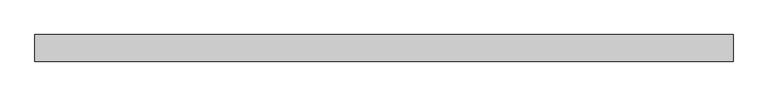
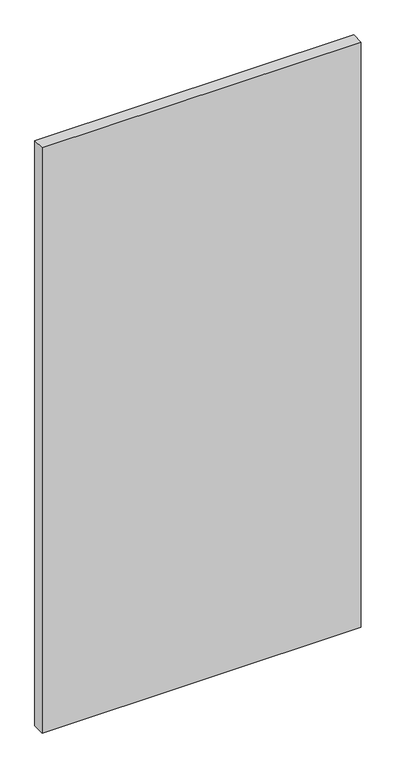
"""IFC4 building model written with IfcOpenShell, lengths in millimetres: plate geometry, Panneau système : Vitre 4cm."""

import ifcopenshell
import ifcopenshell.guid

model = None  # the IFC model being written
_history = None  # IfcOwnerHistory: only IFC2X3 demands one
_inside = {}  # id of a spatial element -> (the spatial element, [elements in it])
_under = {}  # id of a project, library or spatial element -> (it, [spatial elements below it])
_declared = {}  # id of a project -> (the project, [libraries it declares])
_typed = {}  # id of a type object -> (the type object, [elements of that type])
_made_of = {}  # id of a material, layer set ... -> (it, [elements and type objects made of it])


def new_model(schema):
    """Start an empty IFC model of exactly this schema.

    Asked for "IFC4X3", IfcOpenShell would pick the latest addendum, in which some entities
    have other attributes; the version numbers below select the first issue.
    IFC2X3 requires an IfcOwnerHistory on every rooted entity: one is made here for all.
    """
    global model, _history
    if schema == "IFC4X3":
        model = ifcopenshell.file(schema_version=(4, 3, 0, 0))
    else:
        model = ifcopenshell.file(schema=schema)
    _inside.clear()
    _under.clear()
    _declared.clear()
    _typed.clear()
    _made_of.clear()
    _history = None
    if model.schema == "IFC2X3":
        org = make("IfcOrganization", Name="unknown")
        user = make(
            "IfcPersonAndOrganization",
            ThePerson=make("IfcPerson", FamilyName="unknown"),
            TheOrganization=org,
        )
        app = make(
            "IfcApplication",
            ApplicationDeveloper=org,
            Version="unknown",
            ApplicationFullName="unknown",
            ApplicationIdentifier="unknown",
        )
        _history = make(
            "IfcOwnerHistory",
            OwningUser=user,
            OwningApplication=app,
            ChangeAction="ADDED",
            CreationDate=0,
        )
    return model


def make(cls, **values):
    """One entity of the class cls with the attributes given. An attribute that is None is left unset."""
    return model.create_entity(
        cls, **{name: value for name, value in values.items() if value is not None}
    )


def rooted(cls, **values):
    """An entity with a GlobalId (a new one), such as an element, a storey or a relation."""
    return make(cls, GlobalId=ifcopenshell.guid.new(), OwnerHistory=_history, **values)


def si_unit(unit_type, name, prefix=None):
    """IfcSIUnit, for example si_unit("LENGTHUNIT", "METRE", prefix="MILLI")."""
    return make("IfcSIUnit", UnitType=unit_type, Prefix=prefix, Name=name)


def assignment(units):
    """IfcUnitAssignment: the units of a project."""
    return None if units is None else make("IfcUnitAssignment", Units=units)


def point(xyz):
    """IfcCartesianPoint."""
    return None if xyz is None else make("IfcCartesianPoint", Coordinates=xyz)


def direction(xyz):
    """IfcDirection."""
    return None if xyz is None else make("IfcDirection", DirectionRatios=xyz)


def frame(location, z_axis=None, x_axis=None):
    """IfcAxis2Placement3D, a coordinate frame: its origin and axes. An axis left out is left unset."""
    return make(
        "IfcAxis2Placement3D",
        Location=point(location),
        Axis=direction(z_axis),
        RefDirection=direction(x_axis),
    )


def origin():
    """The frame at (0, 0, 0) with its axes left unset."""
    return frame((0.0, 0.0, 0.0))


def origin_with_axes():
    """The frame at (0, 0, 0) with the z axis (0, 0, 1) and the x axis (1, 0, 0) written out."""
    return frame((0.0, 0.0, 0.0), z_axis=(0.0, 0.0, 1.0), x_axis=(1.0, 0.0, 0.0))


def place(relative_to, where):
    """IfcLocalPlacement: puts the frame where relative to a parent placement (None: the world)."""
    return make(
        "IfcLocalPlacement", PlacementRelTo=relative_to, RelativePlacement=where
    )


def context(
    kind, dimensions, precision=None, world=None, true_north=None, identifier=None
):
    """IfcGeometricRepresentationContext, for example the 3D "Model" context."""
    return make(
        "IfcGeometricRepresentationContext",
        ContextIdentifier=identifier,
        ContextType=kind,
        CoordinateSpaceDimension=dimensions,
        Precision=precision,
        WorldCoordinateSystem=world,
        TrueNorth=true_north,
    )


def project(units=None, contexts=None):
    """IfcProject with its units and contexts."""
    return rooted(
        "IfcProject",
        Name="project",
        RepresentationContexts=contexts,
        UnitsInContext=assignment(units),
    )


def spatial(cls, under=None, at=None, **own):
    """A site, building, storey or space (cls), placed at a placement, below another one or the project."""
    s = rooted(cls, ObjectPlacement=at, **own)
    if under is not None:
        _under.setdefault(under.id(), (under, []))[1].append(s)
    return s


def polyline(points):
    """IfcPolyline through the points."""
    return make("IfcPolyline", Points=[point(p) for p in points])


def outline(outer, holes=None, kind="AREA"):
    """IfcArbitraryClosedProfileDef: a profile drawn as a closed curve; with holes, ...WithVoids."""
    if holes is None:
        return make("IfcArbitraryClosedProfileDef", ProfileType=kind, OuterCurve=outer)
    return make(
        "IfcArbitraryProfileDefWithVoids",
        ProfileType=kind,
        OuterCurve=outer,
        InnerCurves=holes,
    )


def extrude(swept, where, along, depth):
    """IfcExtrudedAreaSolid: the profile swept, set in the frame where, extruded along a direction by depth."""
    return make(
        "IfcExtrudedAreaSolid",
        SweptArea=swept,
        Position=where,
        ExtrudedDirection=direction(along),
        Depth=depth,
    )


def shape(context_of_items, identifier, shape_type, items):
    """IfcShapeRepresentation: the items that make up one representation, for example the "Body"."""
    return make(
        "IfcShapeRepresentation",
        ContextOfItems=context_of_items,
        RepresentationIdentifier=identifier,
        RepresentationType=shape_type,
        Items=items,
    )


def source(mapping_origin, context_of_items, identifier, shape_type, items):
    """IfcRepresentationMap: a shape defined once, which mapped items show again and again."""
    return make(
        "IfcRepresentationMap",
        MappingOrigin=mapping_origin,
        MappedRepresentation=shape(context_of_items, identifier, shape_type, items),
    )


def transform(
    local_origin,
    x_axis=None,
    y_axis=None,
    z_axis=None,
    scale=None,
    scale2=None,
    scale3=None,
    uniform=True,
):
    """IfcCartesianTransformationOperator3D, or its non-uniform kind. x_axis, y_axis, z_axis: its Axis1, 2, 3."""
    if uniform:
        return make(
            "IfcCartesianTransformationOperator3D",
            Axis1=direction(x_axis),
            Axis2=direction(y_axis),
            LocalOrigin=point(local_origin),
            Scale=scale,
            Axis3=direction(z_axis),
        )
    return make(
        "IfcCartesianTransformationOperator3DnonUniform",
        Axis1=direction(x_axis),
        Axis2=direction(y_axis),
        LocalOrigin=point(local_origin),
        Scale=scale,
        Axis3=direction(z_axis),
        Scale2=scale2,
        Scale3=scale3,
    )


def mapped(mapping_source, mapping_target):
    """IfcMappedItem: shows the shape of a source again, moved by a transform."""
    return make(
        "IfcMappedItem", MappingSource=mapping_source, MappingTarget=mapping_target
    )


def made_of(thing, what):
    """Note that an element or type object is made of a material, layer set ...; save() writes the relation."""
    if what is not None:
        _made_of.setdefault(what.id(), (what, []))[1].append(thing)
    return thing


def element(
    cls,
    number,
    at=None,
    inside=None,
    cuts=None,
    type_object=None,
    material=None,
    context=None,
    identifier="Body",
    shape_type=None,
    held_by="IfcProductDefinitionShape",
    body=None,
    shapes=None,
    **own,
):
    """One element of the class cls, such as IfcWall. Its Tag is "e" and its number.

    at: its placement. inside: the storey or other place that contains it. cuts: it is an
    opening in that element (IfcRelVoidsElement). A single representation is given by context,
    identifier, shape_type and body (its items); several are given by shapes. held_by: the class
    of the entity that holds the representations. save() writes the other relations.
    """
    e = rooted(cls, Tag="e%d" % number, ObjectPlacement=at, **own)
    if body is not None:
        shapes = [shape(context, identifier, shape_type, body)]
    if shapes is not None:
        e.Representation = make(held_by, Representations=shapes)
    if inside is not None:
        _inside.setdefault(inside.id(), (inside, []))[1].append(e)
    if cuts is not None:
        rooted(
            "IfcRelVoidsElement", RelatingBuildingElement=cuts, RelatedOpeningElement=e
        )
    if type_object is not None:
        _typed.setdefault(type_object.id(), (type_object, []))[1].append(e)
    return made_of(e, material)


def aggregate(whole, parts):
    """IfcRelAggregates: a whole, such as a stair, and the parts it consists of."""
    return rooted("IfcRelAggregates", RelatingObject=whole, RelatedObjects=parts)


def save(model, path):
    """Write the relations noted so far, then the file.

    IfcRelAggregates (storeys below a building ...), IfcRelContainedInSpatialStructure (elements
    in a storey), IfcRelDefinesByType, IfcRelAssociatesMaterial and IfcRelDeclares: one each for
    every whole, place, type object, material and project.
    """
    for whole, parts in _under.values():
        aggregate(whole, parts)
    for where, things in _inside.values():
        rooted(
            "IfcRelContainedInSpatialStructure",
            RelatedElements=things,
            RelatingStructure=where,
        )
    for kind, things in _typed.values():
        rooted("IfcRelDefinesByType", RelatedObjects=things, RelatingType=kind)
    for what, things in _made_of.values():
        rooted("IfcRelAssociatesMaterial", RelatedObjects=things, RelatingMaterial=what)
    for by, libraries in _declared.values():
        rooted("IfcRelDeclares", RelatingContext=by, RelatedDefinitions=libraries)
    model.write(path)


def plate_29d64a08(model_context):
    return source(origin(), model_context, "Body", "SweptSolid", [
        extrude(outline(polyline([(515.9861387, -20.0), (-515.9861387, -20.0), (-515.9861387, 20.0), (515.9861387, 20.0), (515.9861387, -20.0)])), origin_with_axes(), (0.0, 0.0, 1.0), 2000.0),
    ])


if __name__ == "__main__":
    model = new_model("IFC4")
    model_context = context("Model", 3, world=origin())
    ifc_project = project(units=[si_unit("LENGTHUNIT", "METRE", prefix="MILLI")], contexts=[model_context])
    site = spatial("IfcSite", under=ifc_project)
    building = spatial("IfcBuilding", under=site)
    placement = place(None, origin())
    plate_shape = plate_29d64a08(model_context)
    element("IfcPlate", 1, ObjectType="Panneau système : Vitre 4cm", at=placement, inside=building, context=model_context, shape_type="MappedRepresentation", body=[
        mapped(plate_shape, transform((0.0, 0.0, 0.0), x_axis=(1.0, 0.0, 0.0), y_axis=(0.0, 1.0, 0.0), z_axis=(0.0, 0.0, 1.0))),
    ])
    save(model, "model.ifc")
